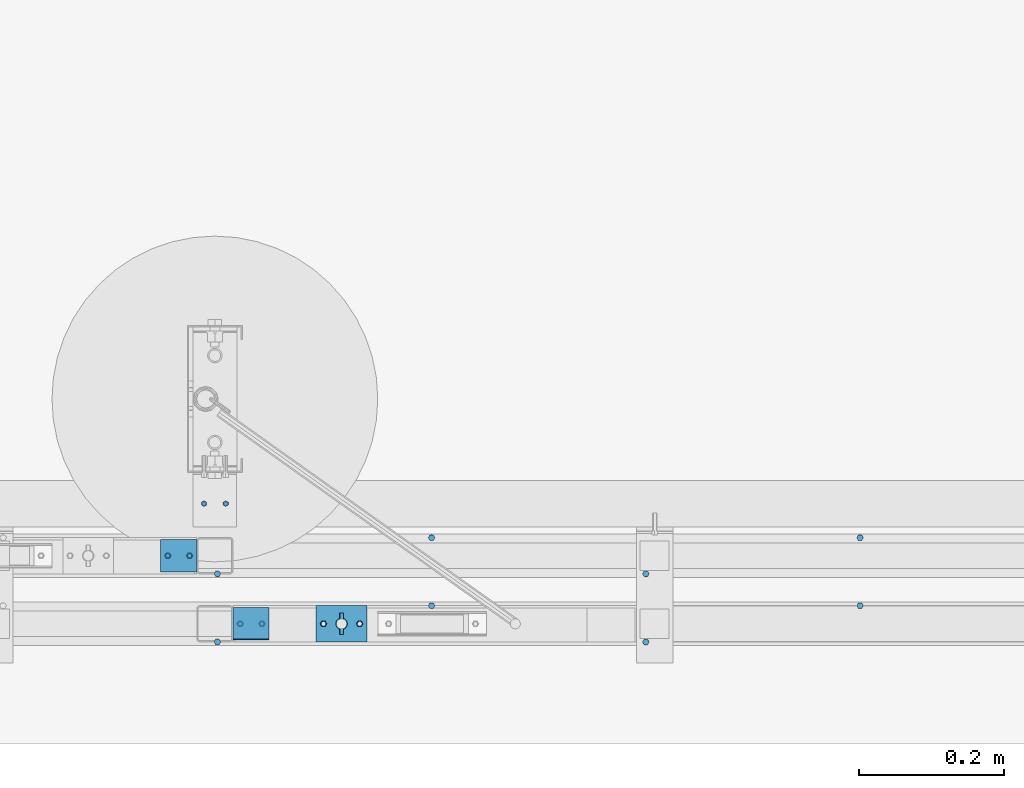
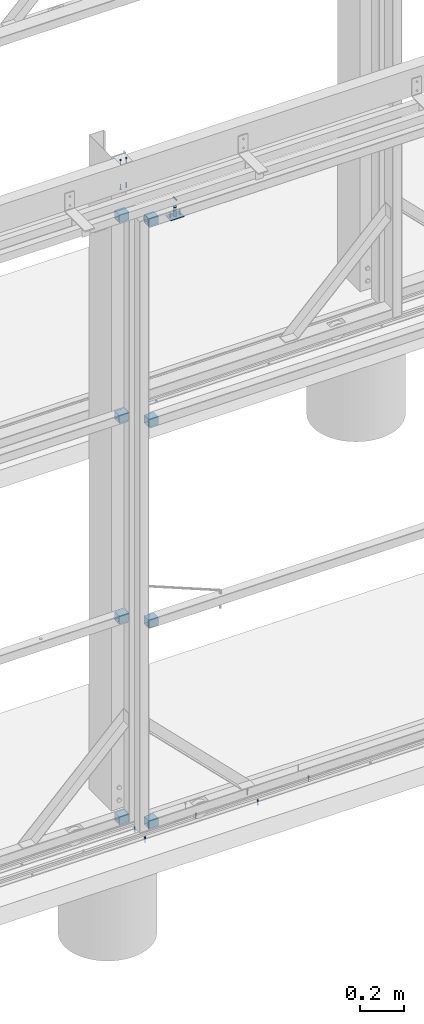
# One storey, part 32 of 91: 20 mechanical fasteners, 10 discrete accessories, 7 elements without a shape of their own.
"""IFC2X3 building model written with IfcOpenShell, lengths in millimetres."""

import ifcopenshell
import ifcopenshell.guid

model = None  # the IFC model being written
_history = None  # IfcOwnerHistory: only IFC2X3 demands one
_inside = {}  # id of a spatial element -> (the spatial element, [elements in it])
_under = {}  # id of a project, library or spatial element -> (it, [spatial elements below it])
_declared = {}  # id of a project -> (the project, [libraries it declares])
_typed = {}  # id of a type object -> (the type object, [elements of that type])
_made_of = {}  # id of a material, layer set ... -> (it, [elements and type objects made of it])


def new_model(schema):
    """Start an empty IFC model of exactly this schema.

    Asked for "IFC4X3", IfcOpenShell would pick the latest addendum, in which some entities
    have other attributes; the version numbers below select the first issue.
    IFC2X3 requires an IfcOwnerHistory on every rooted entity: one is made here for all.
    """
    global model, _history
    if schema == "IFC4X3":
        model = ifcopenshell.file(schema_version=(4, 3, 0, 0))
    else:
        model = ifcopenshell.file(schema=schema)
    _inside.clear()
    _under.clear()
    _declared.clear()
    _typed.clear()
    _made_of.clear()
    _history = None
    if model.schema == "IFC2X3":
        org = make("IfcOrganization", Name="unknown")
        user = make(
            "IfcPersonAndOrganization",
            ThePerson=make("IfcPerson", FamilyName="unknown"),
            TheOrganization=org,
        )
        app = make(
            "IfcApplication",
            ApplicationDeveloper=org,
            Version="unknown",
            ApplicationFullName="unknown",
            ApplicationIdentifier="unknown",
        )
        _history = make(
            "IfcOwnerHistory",
            OwningUser=user,
            OwningApplication=app,
            ChangeAction="ADDED",
            CreationDate=0,
        )
    return model


def make(cls, **values):
    """One entity of the class cls with the attributes given. An attribute that is None is left unset."""
    return model.create_entity(
        cls, **{name: value for name, value in values.items() if value is not None}
    )


def rooted(cls, **values):
    """An entity with a GlobalId (a new one), such as an element, a storey or a relation."""
    return make(cls, GlobalId=ifcopenshell.guid.new(), OwnerHistory=_history, **values)


def si_unit(unit_type, name, prefix=None):
    """IfcSIUnit, for example si_unit("LENGTHUNIT", "METRE", prefix="MILLI")."""
    return make("IfcSIUnit", UnitType=unit_type, Prefix=prefix, Name=name)


def assignment(units):
    """IfcUnitAssignment: the units of a project."""
    return None if units is None else make("IfcUnitAssignment", Units=units)


def point(xyz):
    """IfcCartesianPoint."""
    return None if xyz is None else make("IfcCartesianPoint", Coordinates=xyz)


def direction(xyz):
    """IfcDirection."""
    return None if xyz is None else make("IfcDirection", DirectionRatios=xyz)


def frame(location, z_axis=None, x_axis=None):
    """IfcAxis2Placement3D, a coordinate frame: its origin and axes. An axis left out is left unset."""
    return make(
        "IfcAxis2Placement3D",
        Location=point(location),
        Axis=direction(z_axis),
        RefDirection=direction(x_axis),
    )


def frame_2d(location, x_axis=None):
    """IfcAxis2Placement2D, a coordinate frame in the plane: its origin and x axis."""
    return make(
        "IfcAxis2Placement2D", Location=point(location), RefDirection=direction(x_axis)
    )


def origin_with_axes():
    """The frame at (0, 0, 0) with the z axis (0, 0, 1) and the x axis (1, 0, 0) written out."""
    return frame((0.0, 0.0, 0.0), z_axis=(0.0, 0.0, 1.0), x_axis=(1.0, 0.0, 0.0))


def origin_2d_with_axis():
    """The frame at (0, 0) in the plane with the x axis (1, 0) written out."""
    return frame_2d((0.0, 0.0), x_axis=(1.0, 0.0))


def place(relative_to, where):
    """IfcLocalPlacement: puts the frame where relative to a parent placement (None: the world)."""
    return make(
        "IfcLocalPlacement", PlacementRelTo=relative_to, RelativePlacement=where
    )


def context(
    kind, dimensions, precision=None, world=None, true_north=None, identifier=None
):
    """IfcGeometricRepresentationContext, for example the 3D "Model" context."""
    return make(
        "IfcGeometricRepresentationContext",
        ContextIdentifier=identifier,
        ContextType=kind,
        CoordinateSpaceDimension=dimensions,
        Precision=precision,
        WorldCoordinateSystem=world,
        TrueNorth=true_north,
    )


def subcontext(parent, identifier, kind, view, scale=None):
    """IfcGeometricRepresentationSubContext, for example "Body" below "Model"."""
    return make(
        "IfcGeometricRepresentationSubContext",
        ContextIdentifier=identifier,
        ContextType=kind,
        ParentContext=parent,
        TargetScale=scale,
        TargetView=view,
    )


def project(units=None, contexts=None):
    """IfcProject with its units and contexts."""
    return rooted(
        "IfcProject",
        Name="project",
        RepresentationContexts=contexts,
        UnitsInContext=assignment(units),
    )


def spatial(cls, under=None, at=None, **own):
    """A site, building, storey or space (cls), placed at a placement, below another one or the project."""
    s = rooted(cls, ObjectPlacement=at, **own)
    if under is not None:
        _under.setdefault(under.id(), (under, []))[1].append(s)
    return s


def polyline(points):
    """IfcPolyline through the points."""
    return make("IfcPolyline", Points=[point(p) for p in points])


def profile(cls, at=None, kind="AREA", **sizes):
    """A parametric profile (cls). Its sizes go by their IFC names, for example OverallWidth=200.0."""
    return make(cls, ProfileType=kind, Position=at, **sizes)


def hollow_rectangle(**sizes):
    """IfcRectangleHollowProfileDef."""
    return profile("IfcRectangleHollowProfileDef", **sizes)


def circle(**sizes):
    """IfcCircleProfileDef."""
    return profile("IfcCircleProfileDef", **sizes)


def outline(outer, holes=None, kind="AREA"):
    """IfcArbitraryClosedProfileDef: a profile drawn as a closed curve; with holes, ...WithVoids."""
    if holes is None:
        return make("IfcArbitraryClosedProfileDef", ProfileType=kind, OuterCurve=outer)
    return make(
        "IfcArbitraryProfileDefWithVoids",
        ProfileType=kind,
        OuterCurve=outer,
        InnerCurves=holes,
    )


def extrude(swept, where, along, depth):
    """IfcExtrudedAreaSolid: the profile swept, set in the frame where, extruded along a direction by depth."""
    return make(
        "IfcExtrudedAreaSolid",
        SweptArea=swept,
        Position=where,
        ExtrudedDirection=direction(along),
        Depth=depth,
    )


def shape(context_of_items, identifier, shape_type, items):
    """IfcShapeRepresentation: the items that make up one representation, for example the "Body"."""
    return make(
        "IfcShapeRepresentation",
        ContextOfItems=context_of_items,
        RepresentationIdentifier=identifier,
        RepresentationType=shape_type,
        Items=items,
    )


def source(mapping_origin, context_of_items, identifier, shape_type, items):
    """IfcRepresentationMap: a shape defined once, which mapped items show again and again."""
    return make(
        "IfcRepresentationMap",
        MappingOrigin=mapping_origin,
        MappedRepresentation=shape(context_of_items, identifier, shape_type, items),
    )


def transform(
    local_origin,
    x_axis=None,
    y_axis=None,
    z_axis=None,
    scale=None,
    scale2=None,
    scale3=None,
    uniform=True,
):
    """IfcCartesianTransformationOperator3D, or its non-uniform kind. x_axis, y_axis, z_axis: its Axis1, 2, 3."""
    if uniform:
        return make(
            "IfcCartesianTransformationOperator3D",
            Axis1=direction(x_axis),
            Axis2=direction(y_axis),
            LocalOrigin=point(local_origin),
            Scale=scale,
            Axis3=direction(z_axis),
        )
    return make(
        "IfcCartesianTransformationOperator3DnonUniform",
        Axis1=direction(x_axis),
        Axis2=direction(y_axis),
        LocalOrigin=point(local_origin),
        Scale=scale,
        Axis3=direction(z_axis),
        Scale2=scale2,
        Scale3=scale3,
    )


def mapped(mapping_source, mapping_target):
    """IfcMappedItem: shows the shape of a source again, moved by a transform."""
    return make(
        "IfcMappedItem", MappingSource=mapping_source, MappingTarget=mapping_target
    )


def material(Name=None, Category=None):
    """IfcMaterial."""
    return make("IfcMaterial", Name=Name, Category=Category)


def made_of(thing, what):
    """Note that an element or type object is made of a material, layer set ...; save() writes the relation."""
    if what is not None:
        _made_of.setdefault(what.id(), (what, []))[1].append(thing)
    return thing


def type_object(cls, material=None, **own):
    """A type object (cls), such as IfcWallType, which elements share."""
    return made_of(rooted(cls, **own), material)


def element(
    cls,
    number,
    at=None,
    inside=None,
    cuts=None,
    type_object=None,
    material=None,
    context=None,
    identifier="Body",
    shape_type=None,
    held_by="IfcProductDefinitionShape",
    body=None,
    shapes=None,
    **own,
):
    """One element of the class cls, such as IfcWall. Its Tag is "e" and its number.

    at: its placement. inside: the storey or other place that contains it. cuts: it is an
    opening in that element (IfcRelVoidsElement). A single representation is given by context,
    identifier, shape_type and body (its items); several are given by shapes. held_by: the class
    of the entity that holds the representations. save() writes the other relations.
    """
    e = rooted(cls, Tag="e%d" % number, ObjectPlacement=at, **own)
    if body is not None:
        shapes = [shape(context, identifier, shape_type, body)]
    if shapes is not None:
        e.Representation = make(held_by, Representations=shapes)
    if inside is not None:
        _inside.setdefault(inside.id(), (inside, []))[1].append(e)
    if cuts is not None:
        rooted(
            "IfcRelVoidsElement", RelatingBuildingElement=cuts, RelatedOpeningElement=e
        )
    if type_object is not None:
        _typed.setdefault(type_object.id(), (type_object, []))[1].append(e)
    return made_of(e, material)


def aggregate(whole, parts):
    """IfcRelAggregates: a whole, such as a stair, and the parts it consists of."""
    return rooted("IfcRelAggregates", RelatingObject=whole, RelatedObjects=parts)


def save(model, path):
    """Write the relations noted so far, then the file.

    IfcRelAggregates (storeys below a building ...), IfcRelContainedInSpatialStructure (elements
    in a storey), IfcRelDefinesByType, IfcRelAssociatesMaterial and IfcRelDeclares: one each for
    every whole, place, type object, material and project.
    """
    for whole, parts in _under.values():
        aggregate(whole, parts)
    for where, things in _inside.values():
        rooted(
            "IfcRelContainedInSpatialStructure",
            RelatedElements=things,
            RelatingStructure=where,
        )
    for kind, things in _typed.values():
        rooted("IfcRelDefinesByType", RelatedObjects=things, RelatingType=kind)
    for what, things in _made_of.values():
        rooted("IfcRelAssociatesMaterial", RelatedObjects=things, RelatingMaterial=what)
    for by, libraries in _declared.values():
        rooted("IfcRelDeclares", RelatingContext=by, RelatedDefinitions=libraries)
    model.write(path)


model = new_model("IFC2X3")

# Units and contexts
model_context = context("Model", 3, precision=1e-05, world=origin_with_axes())
body_context = subcontext(model_context, "Body", "Model", "MODEL_VIEW")
ifc_project = project(units=[si_unit("LENGTHUNIT", "METRE", prefix="MILLI"), si_unit("AREAUNIT", "SQUARE_METRE"), si_unit("VOLUMEUNIT", "CUBIC_METRE"), si_unit("MASSUNIT", "GRAM", prefix="KILO"), si_unit("TIMEUNIT", "SECOND"), si_unit("PLANEANGLEUNIT", "RADIAN"), si_unit("SOLIDANGLEUNIT", "STERADIAN"), si_unit("THERMODYNAMICTEMPERATUREUNIT", "DEGREE_CELSIUS"), si_unit("LUMINOUSINTENSITYUNIT", "LUMEN")], contexts=[model_context])

# Site, building, storey
site_placement = place(None, origin_with_axes())
site = spatial("IfcSite", under=ifc_project, at=site_placement, Name="Undefined", CompositionType="ELEMENT")
building_placement = place(site_placement, origin_with_axes())
building = spatial("IfcBuilding", under=site, at=building_placement, Name="Undefined", CompositionType="ELEMENT")
storey_placement = place(building_placement, origin_with_axes())
storey = spatial("IfcBuildingStorey", under=building, at=storey_placement, Name="Undefined", CompositionType="ELEMENT", Elevation=0.0)

# Assembly, discrete accessory
assembly_1_placement = place(storey_placement, origin_with_axes())
assembly_1 = element("IfcElementAssembly", 1, at=assembly_1_placement, inside=storey, Name="ROD", AssemblyPlace="NOTDEFINED", PredefinedType="RIGID_FRAME")
ifc_material_1 = material(Name="STEEL/250")
discrete_accessory_type_1 = type_object("IfcDiscreteAccessoryType", Name="PLATE")
discrete_accessory_1_placement = place(assembly_1_placement, frame((-113618.34, 84643.15, 3324.5), z_axis=(0.0, 0.0, 1.0), x_axis=(0.0, -1.0, 0.0)))
discrete_accessory_1 = element("IfcDiscreteAccessory", 2, at=discrete_accessory_1_placement, type_object=discrete_accessory_type_1, material=ifc_material_1, Name="PLATE", ObjectType="PLT3*50", context=body_context, shape_type="SweptSolid", body=[
    extrude(outline(polyline([(0.0, 0.0), (50.0, 0.0), (50.0, 70.0), (0.0, 70.0), (0.0, 0.0)])), frame((0.0, 0.0, -1.5), z_axis=(0.0, 0.0, 1.0), x_axis=(1.0, 0.0, 0.0)), (0.0, 0.0, 1.0), 3.0),
])

# Assembly, mechanical fasteners
assembly_2_placement = place(storey_placement, origin_with_axes())
assembly_2 = element("IfcElementAssembly", 3, at=assembly_2_placement, inside=storey, Name="SLIDING DOOR", AssemblyPlace="NOTDEFINED", PredefinedType="RIGID_FRAME")
ifc_material_2 = material(Name="TEK_11TPIM")
discrete_accessory_type_2 = type_object("IfcDiscreteAccessoryType", Name="Bolt assembly")
shared_shape_1 = source(origin_with_axes(), body_context, "Body", "SweptSolid", [
    extrude(circle(Radius=3.0, at=origin_2d_with_axis()), frame((0.0, 0.0, 0.0), z_axis=(0.0, 1.0, 0.0), x_axis=(1.0, 0.0, 0.0)), (0.0, 0.0, 1.0), 2.1),
    extrude(outline(polyline([(4.61880215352, 0.0), (2.30940107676, 4.00000000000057), (-2.30940107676, 4.00000000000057), (-4.61880215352, 0.0), (-2.30940107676, -4.00000000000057), (2.30940107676, -4.00000000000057), (4.61880215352, 0.0)])), frame((0.0, -5.0, 0.0), z_axis=(0.0, 1.0, 0.0), x_axis=(1.0, 0.0, 0.0)), (0.0, 0.0, 1.0), 5.0),
    extrude(circle(Radius=3.0, at=origin_2d_with_axis()), frame((0.0, 0.0, 0.0), z_axis=(0.0, 1.0, 0.0), x_axis=(1.0, 0.0, 0.0)), (0.0, 0.0, 1.0), 25.0),
    extrude(circle(Radius=3.0, at=origin_2d_with_axis()), frame((0.0, 2.00000000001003, 0.0), z_axis=(0.0, 1.0, 0.0), x_axis=(1.0, 0.0, 0.0)), (0.0, 0.0, 1.0), 0.1),
    extrude(outline(polyline([(3.46410161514, 0.0), (1.73205080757, 3.00000000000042), (-1.73205080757, 3.00000000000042), (-3.46410161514, 0.0), (-1.73205080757, -3.00000000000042), (1.73205080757, -3.00000000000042), (3.46410161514, 0.0)])), frame((0.0, 2.10000000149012, 0.0), z_axis=(0.0, 1.0, 0.0), x_axis=(1.0, 0.0, 0.0)), (0.0, 0.0, 1.0), 0.1),
])
mechanical_fastener_1_placement = place(assembly_2_placement, frame((-113558.34, 84618.15, 3326.0), z_axis=(0.0, 1.0, 0.0), x_axis=(-1.0, 0.0, 0.0)))
mechanical_fastener_1 = element("IfcMechanicalFastener", 4, at=mechanical_fastener_1_placement, type_object=discrete_accessory_type_2, material=ifc_material_2, Name="Bolt assembly", NominalDiameter=6.0, NominalLength=25.0, context=body_context, shape_type="MappedRepresentation", body=[
    mapped(shared_shape_1, transform((0.0, 0.0, 0.0))),
])
mechanical_fastener_2_placement = place(assembly_2_placement, frame((-113608.34, 84618.15, 3326.0), z_axis=(0.0, -1.0, 0.0), x_axis=(1.0, 0.0, 0.0)))
mechanical_fastener_2 = element("IfcMechanicalFastener", 5, at=mechanical_fastener_2_placement, type_object=discrete_accessory_type_2, material=ifc_material_2, Name="Bolt assembly", NominalDiameter=6.0, NominalLength=25.0, context=body_context, shape_type="MappedRepresentation", body=[
    mapped(shared_shape_1, transform((0.0, 0.0, 0.0))),
])
ifc_material_3 = material(Name="8.8S")
shared_shape_2 = source(origin_with_axes(), body_context, "Body", "SweptSolid", [
    extrude(circle(Radius=8.0, at=origin_2d_with_axis()), frame((0.0, 0.0, 0.0), z_axis=(0.0, 1.0, 0.0), x_axis=(1.0, 0.0, 0.0)), (0.0, 0.0, 1.0), 50.1),
])
mechanical_fastener_3_placement = place(assembly_2_placement, frame((-113583.34, 84618.15, 3326.0), z_axis=(0.0, -1.0, 0.0), x_axis=(1.0, 0.0, 0.0)))
mechanical_fastener_3 = element("IfcMechanicalFastener", 6, at=mechanical_fastener_3_placement, type_object=discrete_accessory_type_2, material=ifc_material_3, Name="Bolt assembly", NominalDiameter=10.0, NominalLength=50.0, context=body_context, shape_type="MappedRepresentation", body=[
    mapped(shared_shape_2, transform((0.0, 0.0, 0.0))),
])
aggregate(assembly_2, [mechanical_fastener_1, mechanical_fastener_2, mechanical_fastener_3])

# Discrete accessory
discrete_accessory_type_3 = type_object("IfcDiscreteAccessoryType", Name="SPRING PIN")
discrete_accessory_2_placement = place(assembly_1_placement, frame((-113583.34, 84603.15, 3421.0), z_axis=(1.0, 0.0, 0.0), x_axis=(0.0, 1.0, 0.0)))
discrete_accessory_2 = element("IfcDiscreteAccessory", 7, at=discrete_accessory_2_placement, type_object=discrete_accessory_type_3, material=ifc_material_1, Name="SPRING PIN", ObjectType="D6", context=body_context, shape_type="SweptSolid", body=[
    extrude(circle(Radius=3.0, at=origin_2d_with_axis()), frame((30.0, 0.0, 0.0), z_axis=(-1.0, 0.0, 0.0), x_axis=(0.0, -1.0, 0.0)), (0.0, 0.0, 1.0), 30.0),
])

aggregate(assembly_1, [discrete_accessory_2, discrete_accessory_1])

# Assembly, mechanical fastener
assembly_3_placement = place(storey_placement, origin_with_axes())
assembly_3 = element("IfcElementAssembly", 8, at=assembly_3_placement, inside=storey, Name="SLIDING DOOR", AssemblyPlace="NOTDEFINED", PredefinedType="RIGID_FRAME")
shared_shape_3 = source(origin_with_axes(), body_context, "Body", "SweptSolid", [
    extrude(circle(Radius=3.0, at=origin_2d_with_axis()), frame((0.0, 0.103333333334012, 0.0), z_axis=(0.0, 1.0, 0.0), x_axis=(1.0, 0.0, 0.0)), (0.0, 0.0, 1.0), 2.0),
    extrude(circle(Radius=3.0, at=origin_2d_with_axis()), frame((0.0, 2.4, 0.0), z_axis=(0.0, 1.0, 0.0), x_axis=(1.0, 0.0, 0.0)), (0.0, 0.0, 1.0), 1.7),
    extrude(outline(polyline([(4.61880215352, 0.0), (2.30940107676, 4.00000000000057), (-2.30940107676, 4.00000000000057), (-4.61880215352, 0.0), (-2.30940107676, -4.00000000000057), (2.30940107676, -4.00000000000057), (4.61880215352, 0.0)])), frame((0.0, -4.99666666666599, 0.0), z_axis=(0.0, 1.0, 0.0), x_axis=(1.0, 0.0, 0.0)), (0.0, 0.0, 1.0), 5.0),
    extrude(circle(Radius=3.0, at=origin_2d_with_axis()), frame((0.0, 0.0033333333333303, 0.0), z_axis=(0.0, 1.0, 0.0), x_axis=(1.0, 0.0, 0.0)), (0.0, 0.0, 1.0), 25.0),
    extrude(circle(Radius=3.0, at=origin_2d_with_axis()), frame((0.0, 4.10000002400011, 0.0), z_axis=(0.0, 1.0, 0.0), x_axis=(1.0, 0.0, 0.0)), (0.0, 0.0, 1.0), 0.1),
    extrude(outline(polyline([(3.46410161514, 0.0), (1.73205080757, 3.00000000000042), (-1.73205080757, 3.00000000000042), (-3.46410161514, 0.0), (-1.73205080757, -3.00000000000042), (1.73205080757, -3.00000000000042), (3.46410161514, 0.0)])), frame((0.0, 4.20000002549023, 0.0), z_axis=(0.0, 1.0, 0.0), x_axis=(1.0, 0.0, 0.0)), (0.0, 0.0, 1.0), 0.1),
])
mechanical_fastener_4_placement = place(assembly_3_placement, frame((-113823.34, 84712.15, 2211.66), z_axis=(0.0, -1.0, 0.0), x_axis=(1.0, 0.0, 0.0)))
mechanical_fastener_4 = element("IfcMechanicalFastener", 9, at=mechanical_fastener_4_placement, type_object=discrete_accessory_type_2, material=ifc_material_2, Name="Bolt assembly", NominalDiameter=6.0, NominalLength=25.0, context=body_context, shape_type="MappedRepresentation", body=[
    mapped(shared_shape_3, transform((0.0, 0.0, 0.0))),
    mapped(shared_shape_3, transform((30.0, 0.0, 0.0))),
])

assembly_4_placement = place(storey_placement, origin_with_axes())
assembly_4 = element("IfcElementAssembly", 10, at=assembly_4_placement, inside=storey, Name="SLIDING DOOR", AssemblyPlace="NOTDEFINED", PredefinedType="RIGID_FRAME")
shared_shape_4 = source(origin_with_axes(), body_context, "Body", "SweptSolid", [
    extrude(circle(Radius=3.0, at=origin_2d_with_axis()), frame((0.0, 0.0966666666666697, 0.0), z_axis=(0.0, 1.0, 0.0), x_axis=(1.0, 0.0, 0.0)), (0.0, 0.0, 1.0), 2.0),
    extrude(circle(Radius=3.0, at=origin_2d_with_axis()), frame((0.0, 2.4, 0.0), z_axis=(0.0, 1.0, 0.0), x_axis=(1.0, 0.0, 0.0)), (0.0, 0.0, 1.0), 1.7),
    extrude(outline(polyline([(4.61880215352, 0.0), (2.30940107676, 4.00000000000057), (-2.30940107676, 4.00000000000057), (-4.61880215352, 0.0), (-2.30940107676, -4.00000000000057), (2.30940107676, -4.00000000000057), (4.61880215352, 0.0)])), frame((0.0, -5.00333333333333, 0.0), z_axis=(0.0, 1.0, 0.0), x_axis=(1.0, 0.0, 0.0)), (0.0, 0.0, 1.0), 5.0),
    extrude(circle(Radius=3.0, at=origin_2d_with_axis()), frame((0.0, -0.0033333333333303, 0.0), z_axis=(0.0, 1.0, 0.0), x_axis=(1.0, 0.0, 0.0)), (0.0, 0.0, 1.0), 25.0),
    extrude(circle(Radius=3.0, at=origin_2d_with_axis()), frame((0.0, 4.10000002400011, 0.0), z_axis=(0.0, 1.0, 0.0), x_axis=(1.0, 0.0, 0.0)), (0.0, 0.0, 1.0), 0.1),
    extrude(outline(polyline([(3.46410161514, 0.0), (1.73205080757, 3.00000000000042), (-1.73205080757, 3.00000000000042), (-3.46410161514, 0.0), (-1.73205080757, -3.00000000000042), (1.73205080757, -3.00000000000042), (3.46410161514, 0.0)])), frame((0.0, 4.20000002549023, 0.0), z_axis=(0.0, 1.0, 0.0), x_axis=(1.0, 0.0, 0.0)), (0.0, 0.0, 1.0), 0.1),
])
mechanical_fastener_5_placement = place(assembly_4_placement, frame((-113723.34, 84618.15, 1097.34), z_axis=(0.0, -1.0, 0.0), x_axis=(1.0, 0.0, 0.0)))
mechanical_fastener_5 = element("IfcMechanicalFastener", 11, at=mechanical_fastener_5_placement, type_object=discrete_accessory_type_2, material=ifc_material_2, Name="Bolt assembly", NominalDiameter=6.0, NominalLength=25.0, context=body_context, shape_type="MappedRepresentation", body=[
    mapped(shared_shape_4, transform((0.0, 0.0, 0.0))),
    mapped(shared_shape_4, transform((30.0, 0.0, 0.0))),
])

# Mechanical fastener
mechanical_fastener_6_placement = place(assembly_3_placement, frame((-113823.34, 84712.15, 1097.34), z_axis=(0.0, -1.0, 0.0), x_axis=(1.0, 0.0, 0.0)))
mechanical_fastener_6 = element("IfcMechanicalFastener", 12, at=mechanical_fastener_6_placement, type_object=discrete_accessory_type_2, material=ifc_material_2, Name="Bolt assembly", NominalDiameter=6.0, NominalLength=25.0, context=body_context, shape_type="MappedRepresentation", body=[
    mapped(shared_shape_4, transform((0.0, 0.0, 0.0))),
    mapped(shared_shape_4, transform((30.0, 0.0, 0.0))),
])

ifc_material_4 = material(Name="TEK_16TPIM")
shared_shape_5 = source(origin_with_axes(), body_context, "Body", "SweptSolid", [
    extrude(circle(Radius=3.5, at=origin_2d_with_axis()), frame((0.0, 0.1, 0.0), z_axis=(0.0, 1.0, 0.0), x_axis=(1.0, 0.0, 0.0)), (0.0, 0.0, 1.0), 2.0),
    extrude(circle(Radius=3.5, at=origin_2d_with_axis()), frame((0.0, 2.4, 0.0), z_axis=(0.0, 1.0, 0.0), x_axis=(1.0, 0.0, 0.0)), (0.0, 0.0, 1.0), 1.7),
    extrude(outline(polyline([(4.04145188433, 0.0), (2.020725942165, 3.5000000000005), (-2.020725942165, 3.5000000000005), (-4.04145188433, 0.0), (-2.020725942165, -3.5000000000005), (2.020725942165, -3.5000000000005), (4.04145188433, 0.0)])), frame((0.0, -5.0, 0.0), z_axis=(0.0, 1.0, 0.0), x_axis=(1.0, 0.0, 0.0)), (0.0, 0.0, 1.0), 5.0),
    extrude(circle(Radius=2.5, at=origin_2d_with_axis()), frame((0.0, 0.0, 0.0), z_axis=(0.0, 1.0, 0.0), x_axis=(1.0, 0.0, 0.0)), (0.0, 0.0, 1.0), 25.0),
    extrude(circle(Radius=2.5, at=origin_2d_with_axis()), frame((0.0, 4.10000002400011, 0.0), z_axis=(0.0, 1.0, 0.0), x_axis=(1.0, 0.0, 0.0)), (0.0, 0.0, 1.0), 0.1),
    extrude(outline(polyline([(2.88675134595, 0.0), (1.443375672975, 2.50000000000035), (-1.443375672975, 2.50000000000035), (-2.88675134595, 0.0), (-1.443375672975, -2.50000000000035), (1.443375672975, -2.50000000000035), (2.88675134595, 0.0)])), frame((0.0, 4.20000002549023, 0.0), z_axis=(0.0, 1.0, 0.0), x_axis=(1.0, 0.0, 0.0)), (0.0, 0.0, 1.0), 0.1),
])
mechanical_fastener_7_placement = place(assembly_4_placement, frame((-113723.34, 84618.15, -17.0), z_axis=(0.0, -1.0, 0.0), x_axis=(1.0, 0.0, 0.0)))
mechanical_fastener_7 = element("IfcMechanicalFastener", 13, at=mechanical_fastener_7_placement, type_object=discrete_accessory_type_2, material=ifc_material_4, Name="Bolt assembly", NominalDiameter=5.0, NominalLength=25.0, context=body_context, shape_type="MappedRepresentation", body=[
    mapped(shared_shape_5, transform((0.0, 0.0, 0.0))),
    mapped(shared_shape_5, transform((30.0, 0.0, 0.0))),
])

mechanical_fastener_8_placement = place(assembly_3_placement, frame((-113823.34, 84712.15, -17.0), z_axis=(0.0, -1.0, 0.0), x_axis=(1.0, 0.0, 0.0)))
mechanical_fastener_8 = element("IfcMechanicalFastener", 14, at=mechanical_fastener_8_placement, type_object=discrete_accessory_type_2, material=ifc_material_4, Name="Bolt assembly", NominalDiameter=5.0, NominalLength=25.0, context=body_context, shape_type="MappedRepresentation", body=[
    mapped(shared_shape_5, transform((0.0, 0.0, 0.0))),
    mapped(shared_shape_5, transform((30.0, 0.0, 0.0))),
])

shared_shape_6 = source(origin_with_axes(), body_context, "Body", "SweptSolid", [
    extrude(circle(Radius=3.0, at=origin_2d_with_axis()), frame((0.0, 0.1, 0.0), z_axis=(0.0, 1.0, 0.0), x_axis=(1.0, 0.0, 0.0)), (0.0, 0.0, 1.0), 2.0),
    extrude(circle(Radius=3.0, at=origin_2d_with_axis()), frame((0.0, 2.4, 0.0), z_axis=(0.0, 1.0, 0.0), x_axis=(1.0, 0.0, 0.0)), (0.0, 0.0, 1.0), 1.7),
    extrude(outline(polyline([(4.61880215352, 0.0), (2.30940107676, 4.00000000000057), (-2.30940107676, 4.00000000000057), (-4.61880215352, 0.0), (-2.30940107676, -4.00000000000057), (2.30940107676, -4.00000000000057), (4.61880215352, 0.0)])), frame((0.0, -5.0, 0.0), z_axis=(0.0, 1.0, 0.0), x_axis=(1.0, 0.0, 0.0)), (0.0, 0.0, 1.0), 5.0),
    extrude(circle(Radius=3.0, at=origin_2d_with_axis()), frame((0.0, 0.0, 0.0), z_axis=(0.0, 1.0, 0.0), x_axis=(1.0, 0.0, 0.0)), (0.0, 0.0, 1.0), 25.0),
    extrude(circle(Radius=3.0, at=origin_2d_with_axis()), frame((0.0, 4.10000002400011, 0.0), z_axis=(0.0, 1.0, 0.0), x_axis=(1.0, 0.0, 0.0)), (0.0, 0.0, 1.0), 0.1),
    extrude(outline(polyline([(3.46410161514, 0.0), (1.73205080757, 3.00000000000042), (-1.73205080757, 3.00000000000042), (-3.46410161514, 0.0), (-1.73205080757, -3.00000000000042), (1.73205080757, -3.00000000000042), (3.46410161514, 0.0)])), frame((0.0, 4.20000002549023, 0.0), z_axis=(0.0, 1.0, 0.0), x_axis=(1.0, 0.0, 0.0)), (0.0, 0.0, 1.0), 0.1),
])
mechanical_fastener_9_placement = place(assembly_4_placement, frame((-113723.34, 84618.15, 3326.0), z_axis=(0.0, -1.0, 0.0), x_axis=(1.0, 0.0, 0.0)))
mechanical_fastener_9 = element("IfcMechanicalFastener", 15, at=mechanical_fastener_9_placement, type_object=discrete_accessory_type_2, material=ifc_material_2, Name="Bolt assembly", NominalDiameter=6.0, NominalLength=25.0, context=body_context, shape_type="MappedRepresentation", body=[
    mapped(shared_shape_6, transform((0.0, 0.0, 0.0))),
    mapped(shared_shape_6, transform((30.0, 0.0, 0.0))),
])

mechanical_fastener_10_placement = place(assembly_3_placement, frame((-113823.34, 84712.15, 3326.0), z_axis=(0.0, -1.0, 0.0), x_axis=(1.0, 0.0, 0.0)))
mechanical_fastener_10 = element("IfcMechanicalFastener", 16, at=mechanical_fastener_10_placement, type_object=discrete_accessory_type_2, material=ifc_material_2, Name="Bolt assembly", NominalDiameter=6.0, NominalLength=25.0, context=body_context, shape_type="MappedRepresentation", body=[
    mapped(shared_shape_6, transform((0.0, 0.0, 0.0))),
    mapped(shared_shape_6, transform((30.0, 0.0, 0.0))),
])

# Assembly, mechanical fasteners
assembly_5_placement = place(storey_placement, origin_with_axes())
assembly_5 = element("IfcElementAssembly", 17, at=assembly_5_placement, inside=storey, Name="DOOR TRACK", AssemblyPlace="NOTDEFINED", PredefinedType="RIGID_FRAME")
ifc_material_5 = material(Name="TEK_10TPII")
shared_shape_7 = source(origin_with_axes(), body_context, "Body", "SweptSolid", [
    extrude(circle(Radius=4.07999992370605, at=origin_2d_with_axis()), frame((0.0, 0.0, 0.0), z_axis=(0.0, 1.0, 0.0), x_axis=(1.0, 0.0, 0.0)), (0.0, 0.0, 1.0), 3.1),
    extrude(outline(polyline([(4.61880215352, 0.0), (2.30940107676, 4.00000000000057), (-2.30940107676, 4.00000000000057), (-4.61880215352, 0.0), (-2.30940107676, -4.00000000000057), (2.30940107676, -4.00000000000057), (4.61880215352, 0.0)])), frame((0.0, -5.0, 0.0), z_axis=(0.0, 1.0, 0.0), x_axis=(1.0, 0.0, 0.0)), (0.0, 0.0, 1.0), 5.0),
    extrude(circle(Radius=3.07999992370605, at=origin_2d_with_axis()), frame((0.0, 0.0, 0.0), z_axis=(0.0, 1.0, 0.0), x_axis=(1.0, 0.0, 0.0)), (0.0, 0.0, 1.0), 25.0),
    extrude(circle(Radius=3.0, at=origin_2d_with_axis()), frame((0.0, 3.0, 0.0), z_axis=(0.0, 1.0, 0.0), x_axis=(1.0, 0.0, 0.0)), (0.0, 0.0, 1.0), 0.1),
    extrude(outline(polyline([(3.46410161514, 0.0), (1.73205080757, 3.00000000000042), (-1.73205080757, 3.00000000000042), (-3.46410161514, 0.0), (-1.73205080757, -3.00000000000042), (1.73205080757, -3.00000000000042), (3.46410161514, 0.0)])), frame((0.0, 3.10000000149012, 0.0), z_axis=(0.0, 1.0, 0.0), x_axis=(1.0, 0.0, 0.0)), (0.0, 0.0, 1.0), 0.1),
])
mechanical_fastener_11_placement = place(assembly_5_placement, frame((-112867.14, 84737.151953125, -54.0), z_axis=(0.0, 1.0, 0.0), x_axis=(1.0, 0.0, 0.0)))
mechanical_fastener_11 = element("IfcMechanicalFastener", 18, at=mechanical_fastener_11_placement, type_object=discrete_accessory_type_2, material=ifc_material_5, Name="Bolt assembly", NominalDiameter=6.15999984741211, NominalLength=25.0, context=body_context, shape_type="MappedRepresentation", body=[
    mapped(shared_shape_7, transform((0.0, 0.0, 0.0))),
])
mechanical_fastener_12_placement = place(assembly_5_placement, frame((-113163.04, 84687.151953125, -54.0), z_axis=(0.0, 1.0, 0.0), x_axis=(1.0, 0.0, 0.0)))
mechanical_fastener_12 = element("IfcMechanicalFastener", 19, at=mechanical_fastener_12_placement, type_object=discrete_accessory_type_2, material=ifc_material_5, Name="Bolt assembly", NominalDiameter=6.15999984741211, NominalLength=25.0, context=body_context, shape_type="MappedRepresentation", body=[
    mapped(shared_shape_7, transform((0.0, 0.0, 0.0))),
])
mechanical_fastener_13_placement = place(assembly_5_placement, frame((-113458.94, 84737.151953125, -54.0), z_axis=(0.0, 1.0, 0.0), x_axis=(1.0, 0.0, 0.0)))
mechanical_fastener_13 = element("IfcMechanicalFastener", 20, at=mechanical_fastener_13_placement, type_object=discrete_accessory_type_2, material=ifc_material_5, Name="Bolt assembly", NominalDiameter=6.15999984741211, NominalLength=25.0, context=body_context, shape_type="MappedRepresentation", body=[
    mapped(shared_shape_7, transform((0.0, 0.0, 0.0))),
])
mechanical_fastener_14_placement = place(assembly_5_placement, frame((-113754.84, 84687.151953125, -54.0), z_axis=(0.0, 1.0, 0.0), x_axis=(1.0, 0.0, 0.0)))
mechanical_fastener_14 = element("IfcMechanicalFastener", 21, at=mechanical_fastener_14_placement, type_object=discrete_accessory_type_2, material=ifc_material_5, Name="Bolt assembly", NominalDiameter=6.15999984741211, NominalLength=25.0, context=body_context, shape_type="MappedRepresentation", body=[
    mapped(shared_shape_7, transform((0.0, 0.0, 0.0))),
])
aggregate(assembly_5, [mechanical_fastener_11, mechanical_fastener_12, mechanical_fastener_13, mechanical_fastener_14])

assembly_6_placement = place(storey_placement, origin_with_axes())
assembly_6 = element("IfcElementAssembly", 22, at=assembly_6_placement, inside=storey, Name="DOOR TRACK", AssemblyPlace="NOTDEFINED", PredefinedType="RIGID_FRAME")
mechanical_fastener_15_placement = place(assembly_6_placement, frame((-112867.14, 84643.151953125, -54.0), z_axis=(0.0, 1.0, 0.0), x_axis=(1.0, 0.0, 0.0)))
mechanical_fastener_15 = element("IfcMechanicalFastener", 23, at=mechanical_fastener_15_placement, type_object=discrete_accessory_type_2, material=ifc_material_5, Name="Bolt assembly", NominalDiameter=6.15999984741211, NominalLength=25.0, context=body_context, shape_type="MappedRepresentation", body=[
    mapped(shared_shape_7, transform((0.0, 0.0, 0.0))),
])
mechanical_fastener_16_placement = place(assembly_6_placement, frame((-113163.04, 84593.151953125, -54.0), z_axis=(0.0, 1.0, 0.0), x_axis=(1.0, 0.0, 0.0)))
mechanical_fastener_16 = element("IfcMechanicalFastener", 24, at=mechanical_fastener_16_placement, type_object=discrete_accessory_type_2, material=ifc_material_5, Name="Bolt assembly", NominalDiameter=6.15999984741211, NominalLength=25.0, context=body_context, shape_type="MappedRepresentation", body=[
    mapped(shared_shape_7, transform((0.0, 0.0, 0.0))),
])
mechanical_fastener_17_placement = place(assembly_6_placement, frame((-113458.94, 84643.151953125, -54.0), z_axis=(0.0, 1.0, 0.0), x_axis=(1.0, 0.0, 0.0)))
mechanical_fastener_17 = element("IfcMechanicalFastener", 25, at=mechanical_fastener_17_placement, type_object=discrete_accessory_type_2, material=ifc_material_5, Name="Bolt assembly", NominalDiameter=6.15999984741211, NominalLength=25.0, context=body_context, shape_type="MappedRepresentation", body=[
    mapped(shared_shape_7, transform((0.0, 0.0, 0.0))),
])
mechanical_fastener_18_placement = place(assembly_6_placement, frame((-113754.84, 84593.151953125, -54.0), z_axis=(0.0, 1.0, 0.0), x_axis=(1.0, 0.0, 0.0)))
mechanical_fastener_18 = element("IfcMechanicalFastener", 26, at=mechanical_fastener_18_placement, type_object=discrete_accessory_type_2, material=ifc_material_5, Name="Bolt assembly", NominalDiameter=6.15999984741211, NominalLength=25.0, context=body_context, shape_type="MappedRepresentation", body=[
    mapped(shared_shape_7, transform((0.0, 0.0, 0.0))),
])
aggregate(assembly_6, [mechanical_fastener_15, mechanical_fastener_16, mechanical_fastener_17, mechanical_fastener_18])

assembly_7_placement = place(storey_placement, origin_with_axes())
assembly_7 = element("IfcElementAssembly", 27, at=assembly_7_placement, inside=storey, Name="FASCIA BRACKET", AssemblyPlace="NOTDEFINED", PredefinedType="RIGID_FRAME")
shared_shape_8 = source(origin_with_axes(), body_context, "Body", "SweptSolid", [
    extrude(circle(Radius=3.5, at=origin_2d_with_axis()), frame((0.0, -2.59999694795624, 0.0), z_axis=(0.0, 1.0, 0.0), x_axis=(1.0, 0.0, 0.0)), (0.0, 0.0, 1.0), 1.7),
    extrude(outline(polyline([(4.04145188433, 0.0), (2.020725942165, 3.5000000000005), (-2.020725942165, 3.5000000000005), (-4.04145188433, 0.0), (-2.020725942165, -3.5000000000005), (2.020725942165, -3.5000000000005), (4.04145188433, 0.0)])), frame((0.0, -7.69999694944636, 0.0), z_axis=(0.0, 1.0, 0.0), x_axis=(1.0, 0.0, 0.0)), (0.0, 0.0, 1.0), 5.0),
    extrude(circle(Radius=2.5, at=origin_2d_with_axis()), frame((0.0, -2.69999694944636, 0.0), z_axis=(0.0, 1.0, 0.0), x_axis=(1.0, 0.0, 0.0)), (0.0, 0.0, 1.0), 25.0),
    extrude(circle(Radius=2.5, at=origin_2d_with_axis()), frame((0.0, -2.69999694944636, 0.0), z_axis=(0.0, 1.0, 0.0), x_axis=(1.0, 0.0, 0.0)), (0.0, 0.0, 1.0), 0.1),
    extrude(circle(Radius=2.5, at=origin_2d_with_axis()), frame((0.0, -1.0, 0.0), z_axis=(0.0, 1.0, 0.0), x_axis=(1.0, 0.0, 0.0)), (0.0, 0.0, 1.0), 0.1),
    extrude(outline(polyline([(2.88675134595, 0.0), (1.443375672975, 2.50000000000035), (-1.443375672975, 2.50000000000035), (-2.88675134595, 0.0), (-1.443375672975, -2.50000000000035), (1.443375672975, -2.50000000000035), (2.88675134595, 0.0)])), frame((0.0, -0.899996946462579, 0.0), z_axis=(0.0, 1.0, 0.0), x_axis=(1.0, 0.0, 0.0)), (0.0, 0.0, 1.0), 0.1),
])
mechanical_fastener_19_placement = place(assembly_7_placement, frame((-113758.339999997, 84784.1514572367, 3444.01721782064), z_axis=(-1.0, 0.0, 0.0), x_axis=(0.0, -1.0, 0.0)))
mechanical_fastener_19 = element("IfcMechanicalFastener", 28, at=mechanical_fastener_19_placement, type_object=discrete_accessory_type_2, material=ifc_material_4, Name="Bolt assembly", NominalDiameter=5.0, NominalLength=25.0, context=body_context, shape_type="MappedRepresentation", body=[
    mapped(shared_shape_8, transform((0.0, 0.0, -15.0))),
    mapped(shared_shape_8, transform((0.0, 0.0, 15.0))),
])
mechanical_fastener_20_placement = place(assembly_7_placement, frame((-113758.339999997, 84784.1514572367, 3596.01721782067), z_axis=(1.0, 0.0, 0.0), x_axis=(0.0, -1.0, 0.0)))
mechanical_fastener_20 = element("IfcMechanicalFastener", 29, at=mechanical_fastener_20_placement, type_object=discrete_accessory_type_2, material=ifc_material_4, Name="Bolt assembly", NominalDiameter=5.0, NominalLength=25.0, context=body_context, shape_type="MappedRepresentation", body=[
    mapped(shared_shape_8, transform((0.0, 0.0, -15.0))),
    mapped(shared_shape_8, transform((0.0, 0.0, 15.0))),
])
aggregate(assembly_7, [mechanical_fastener_19, mechanical_fastener_20])

# Discrete accessory
ifc_material_6 = material(Name="STEEL/300")
discrete_accessory_type_4 = type_object("IfcDiscreteAccessoryType", Name="SLIDING DOOR")
discrete_accessory_3_placement = place(assembly_4_placement, frame((-113683.34, 84618.15, 3351.0), z_axis=(0.0, -1.0, 0.0), x_axis=(-1.0, 0.0, 0.0)))
discrete_accessory_3 = element("IfcDiscreteAccessory", 30, at=discrete_accessory_3_placement, type_object=discrete_accessory_type_4, material=ifc_material_6, Name="SLIDING DOOR", ObjectType="SHS:45X45X1.6", context=body_context, shape_type="SweptSolid", body=[
    extrude(hollow_rectangle(XDim=45.0, YDim=45.0, WallThickness=1.600000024, InnerFilletRadius=1.600000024, OuterFilletRadius=3.200000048, at=origin_2d_with_axis()), frame((50.0, 0.0, 0.0), z_axis=(-1.0, 0.0, 0.0), x_axis=(0.0, -1.0, 0.0)), (0.0, 0.0, 1.0), 50.0),
])

discrete_accessory_4_placement = place(assembly_4_placement, frame((-113683.34, 84618.15, 2236.66), z_axis=(0.0, -1.0, 0.0), x_axis=(-1.0, 0.0, 0.0)))
discrete_accessory_4 = element("IfcDiscreteAccessory", 31, at=discrete_accessory_4_placement, type_object=discrete_accessory_type_4, material=ifc_material_6, Name="SLIDING DOOR", ObjectType="SHS:45X45X1.6", context=body_context, shape_type="SweptSolid", body=[
    extrude(hollow_rectangle(XDim=45.0, YDim=45.0, WallThickness=1.600000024, InnerFilletRadius=1.600000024, OuterFilletRadius=3.200000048, at=origin_2d_with_axis()), frame((50.0, 0.0, 0.0), z_axis=(-1.0, 0.0, 0.0), x_axis=(0.0, -1.0, 0.0)), (0.0, 0.0, 1.0), 50.0),
])

discrete_accessory_5_placement = place(assembly_4_placement, frame((-113683.34, 84618.15, 1122.34), z_axis=(0.0, -1.0, 0.0), x_axis=(-1.0, 0.0, 0.0)))
discrete_accessory_5 = element("IfcDiscreteAccessory", 32, at=discrete_accessory_5_placement, type_object=discrete_accessory_type_4, material=ifc_material_6, Name="SLIDING DOOR", ObjectType="SHS:45X45X1.6", context=body_context, shape_type="SweptSolid", body=[
    extrude(hollow_rectangle(XDim=45.0, YDim=45.0, WallThickness=1.600000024, InnerFilletRadius=1.600000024, OuterFilletRadius=3.200000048, at=origin_2d_with_axis()), frame((50.0, 0.0, 0.0), z_axis=(-1.0, 0.0, 0.0), x_axis=(0.0, -1.0, 0.0)), (0.0, 0.0, 1.0), 50.0),
])

discrete_accessory_6_placement = place(assembly_4_placement, frame((-113683.34, 84618.15, 8.0), z_axis=(0.0, -1.0, 0.0), x_axis=(-1.0, 0.0, 0.0)))
discrete_accessory_6 = element("IfcDiscreteAccessory", 33, at=discrete_accessory_6_placement, type_object=discrete_accessory_type_4, material=ifc_material_6, Name="SLIDING DOOR", ObjectType="SHS:45X45X1.6", context=body_context, shape_type="SweptSolid", body=[
    extrude(hollow_rectangle(XDim=45.0, YDim=45.0, WallThickness=1.600000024, InnerFilletRadius=1.600000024, OuterFilletRadius=3.200000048, at=origin_2d_with_axis()), frame((50.0, 0.0, 0.0), z_axis=(-1.0, 0.0, 0.0), x_axis=(0.0, -1.0, 0.0)), (0.0, 0.0, 1.0), 50.0),
])

aggregate(assembly_4, [mechanical_fastener_5, mechanical_fastener_7, mechanical_fastener_9, discrete_accessory_3, discrete_accessory_4, discrete_accessory_5, discrete_accessory_6])

discrete_accessory_7_placement = place(assembly_3_placement, frame((-113783.34, 84712.15, 3351.0), z_axis=(0.0, -1.0, 0.0), x_axis=(-1.0, 0.0, 0.0)))
discrete_accessory_7 = element("IfcDiscreteAccessory", 34, at=discrete_accessory_7_placement, type_object=discrete_accessory_type_4, material=ifc_material_6, Name="SLIDING DOOR", ObjectType="SHS:45X45X1.6", context=body_context, shape_type="SweptSolid", body=[
    extrude(hollow_rectangle(XDim=45.0, YDim=45.0, WallThickness=1.600000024, InnerFilletRadius=1.600000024, OuterFilletRadius=3.200000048, at=origin_2d_with_axis()), frame((50.0, 0.0, 0.0), z_axis=(-1.0, 0.0, 0.0), x_axis=(0.0, -1.0, 0.0)), (0.0, 0.0, 1.0), 50.0),
])

discrete_accessory_8_placement = place(assembly_3_placement, frame((-113783.34, 84712.15, 2236.66), z_axis=(0.0, -1.0, 0.0), x_axis=(-1.0, 0.0, 0.0)))
discrete_accessory_8 = element("IfcDiscreteAccessory", 35, at=discrete_accessory_8_placement, type_object=discrete_accessory_type_4, material=ifc_material_6, Name="SLIDING DOOR", ObjectType="SHS:45X45X1.6", context=body_context, shape_type="SweptSolid", body=[
    extrude(hollow_rectangle(XDim=45.0, YDim=45.0, WallThickness=1.600000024, InnerFilletRadius=1.600000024, OuterFilletRadius=3.200000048, at=origin_2d_with_axis()), frame((50.0, 0.0, 0.0), z_axis=(-1.0, 0.0, 0.0), x_axis=(0.0, -1.0, 0.0)), (0.0, 0.0, 1.0), 50.0),
])

discrete_accessory_9_placement = place(assembly_3_placement, frame((-113783.34, 84712.15, 1122.34), z_axis=(0.0, -1.0, 0.0), x_axis=(-1.0, 0.0, 0.0)))
discrete_accessory_9 = element("IfcDiscreteAccessory", 36, at=discrete_accessory_9_placement, type_object=discrete_accessory_type_4, material=ifc_material_6, Name="SLIDING DOOR", ObjectType="SHS:45X45X1.6", context=body_context, shape_type="SweptSolid", body=[
    extrude(hollow_rectangle(XDim=45.0, YDim=45.0, WallThickness=1.600000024, InnerFilletRadius=1.600000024, OuterFilletRadius=3.200000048, at=origin_2d_with_axis()), frame((50.0, 0.0, 0.0), z_axis=(-1.0, 0.0, 0.0), x_axis=(0.0, -1.0, 0.0)), (0.0, 0.0, 1.0), 50.0),
])

discrete_accessory_10_placement = place(assembly_3_placement, frame((-113783.34, 84712.15, 8.0), z_axis=(0.0, -1.0, 0.0), x_axis=(-1.0, 0.0, 0.0)))
discrete_accessory_10 = element("IfcDiscreteAccessory", 37, at=discrete_accessory_10_placement, type_object=discrete_accessory_type_4, material=ifc_material_6, Name="SLIDING DOOR", ObjectType="SHS:45X45X1.6", context=body_context, shape_type="SweptSolid", body=[
    extrude(hollow_rectangle(XDim=45.0, YDim=45.0, WallThickness=1.600000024, InnerFilletRadius=1.600000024, OuterFilletRadius=3.200000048, at=origin_2d_with_axis()), frame((50.0, 0.0, 0.0), z_axis=(-1.0, 0.0, 0.0), x_axis=(0.0, -1.0, 0.0)), (0.0, 0.0, 1.0), 50.0),
])

aggregate(assembly_3, [mechanical_fastener_4, mechanical_fastener_6, mechanical_fastener_8, mechanical_fastener_10, discrete_accessory_7, discrete_accessory_8, discrete_accessory_9, discrete_accessory_10])

save(model, "model.ifc")
